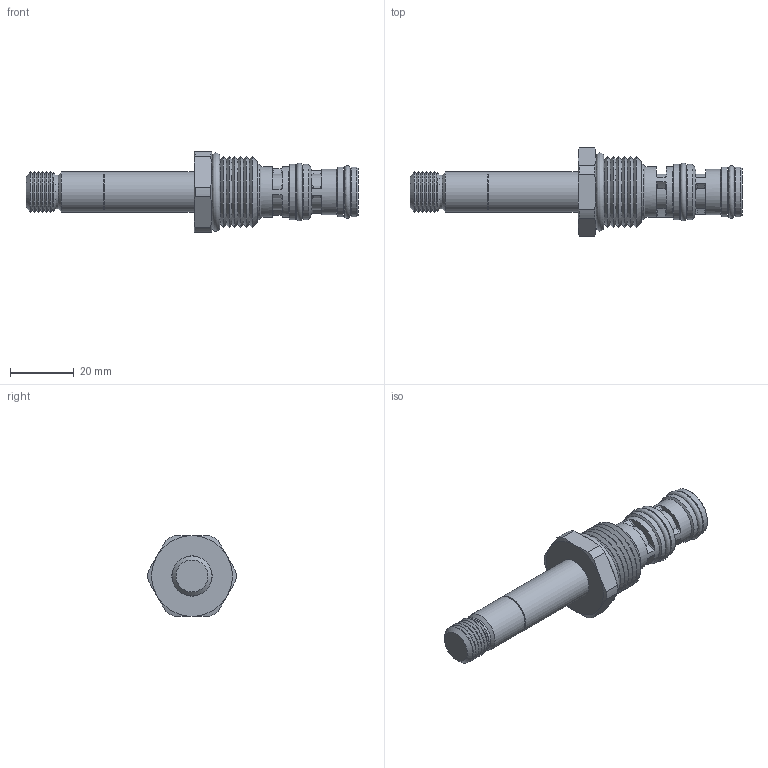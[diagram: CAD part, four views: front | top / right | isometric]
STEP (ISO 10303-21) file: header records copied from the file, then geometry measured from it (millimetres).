
FILE_DESCRIPTION((''),'2;1');
FILE_NAME('Q:\Solid model CD\Solid model full\Solenoid\STEP\DFS3T00-3D Full.stp','2009-06-01T09:26:41',('Dan'),(''),'Autodesk Inventor 2009','Autodesk Inventor 2009','');
FILE_SCHEMA(('AUTOMOTIVE_DESIGN { 1 0 10303 214 1 1 1 1 }'));
Length unit declared in the file: inch
Products named in the file (5): DFS3T00-3D Full; DFS3T00-3D Full1; DFS3T00-3D Full2; DFS3T00-3D Full3; DFS3T00-3D Full4
Assembly tree (4 placements, depth 2):
  DFS3T00-3D Full
    DFS3T00-3D Full1
    DFS3T00-3D Full2
    DFS3T00-3D Full3
    DFS3T00-3D Full4
Bounding box: 104.41 x 27.74 x 25.4 mm (x, y, z)
Volume: 19676.5 mm3; surface area: 8481.8 mm2
Topology: 4 solids, 4 shells, 153 faces, 340 edges, 206 vertices
Faces by surface type: bspline 52, cylinder 32, torus 24, cone 23, plane 22
Full cylindrical faces by diameter (mm): 10.668 x1, 10.998 x1, 11.11 x1, 12.586 x1, 12.675 x1, 12.992 x1, 14.275 x1, 14.592 x1, 15.723 x2, 15.875 x1, 17.323 x3
Entity records: 5459 total; most frequent: CARTESIAN_POINT 2407, DIRECTION 588, ORIENTED_EDGE 560, EDGE_CURVE 280, AXIS2_PLACEMENT_3D 276, EDGE_LOOP 229, VERTEX_POINT 205, CIRCLE 166
